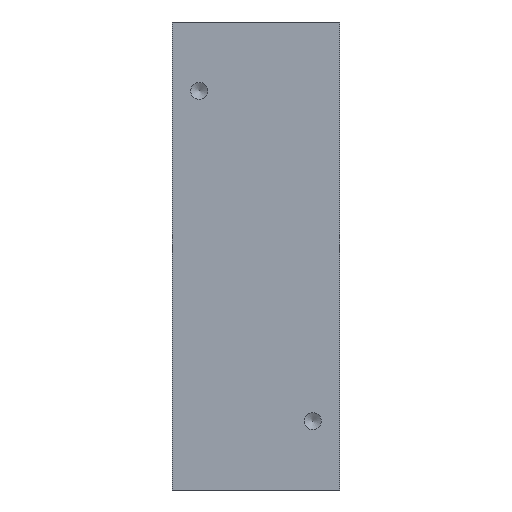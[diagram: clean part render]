
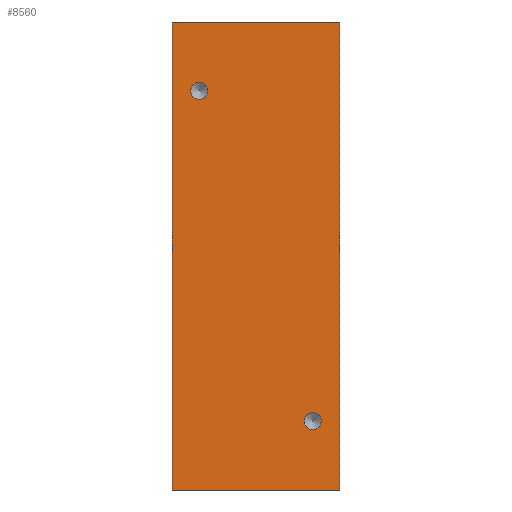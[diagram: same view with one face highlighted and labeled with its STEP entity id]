
A CAD part, front view. The second image highlights one B-rep face of the part: STEP entity #8560.
In plain terms, the highlighted planar face has unit normal (0, -1, 0).
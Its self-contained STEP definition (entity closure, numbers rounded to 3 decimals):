
#573=FACE_BOUND('',#1832,.T.);
#574=FACE_BOUND('',#1833,.T.);
#800=PLANE('',#9540);
#1278=FACE_OUTER_BOUND('',#1831,.T.);
#1831=EDGE_LOOP('',(#7775,#7776,#7777,#7778));
#1832=EDGE_LOOP('',(#7779));
#1833=EDGE_LOOP('',(#7780));
#2056=LINE('',#13563,#2677);
#2063=LINE('',#13584,#2684);
#2441=LINE('',#15339,#3062);
#2442=LINE('',#15340,#3063);
#2677=VECTOR('',#10551,34.);
#2684=VECTOR('',#10570,34.);
#3062=VECTOR('',#12006,95.);
#3063=VECTOR('',#12007,95.);
#3562=CIRCLE('',#9541,1.73);
#3563=CIRCLE('',#9542,1.73);
#3861=VERTEX_POINT('',#13561);
#3862=VERTEX_POINT('',#13562);
#3868=VERTEX_POINT('',#13580);
#3870=VERTEX_POINT('',#13583);
#4330=VERTEX_POINT('',#15341);
#4331=VERTEX_POINT('',#15343);
#4796=EDGE_CURVE('',#3861,#3862,#2056,.T.);
#4806=EDGE_CURVE('',#3870,#3868,#2063,.T.);
#5494=EDGE_CURVE('',#3861,#3868,#2441,.T.);
#5495=EDGE_CURVE('',#3862,#3870,#2442,.T.);
#5496=EDGE_CURVE('',#4330,#4330,#3562,.T.);
#5497=EDGE_CURVE('',#4331,#4331,#3563,.T.);
#7775=ORIENTED_EDGE('',*,*,#4806,.T.);
#7776=ORIENTED_EDGE('',*,*,#5494,.F.);
#7777=ORIENTED_EDGE('',*,*,#4796,.T.);
#7778=ORIENTED_EDGE('',*,*,#5495,.T.);
#7779=ORIENTED_EDGE('',*,*,#5496,.T.);
#7780=ORIENTED_EDGE('',*,*,#5497,.T.);
#8560=ADVANCED_FACE('',(#1278,#573,#574),#800,.T.);
#9540=AXIS2_PLACEMENT_3D('',#15338,#12004,#12005);
#9541=AXIS2_PLACEMENT_3D('',#15342,#12008,#12009);
#9542=AXIS2_PLACEMENT_3D('',#15344,#12010,#12011);
#10551=DIRECTION('',(-1.,0.,0.));
#10570=DIRECTION('',(1.,0.,0.));
#12004=DIRECTION('center_axis',(0.,-1.,0.));
#12005=DIRECTION('ref_axis',(0.,0.,-1.));
#12006=DIRECTION('',(0.,0.,-1.));
#12007=DIRECTION('',(0.,0.,-1.));
#12008=DIRECTION('center_axis',(0.,1.,0.));
#12009=DIRECTION('ref_axis',(1.,0.,0.));
#12010=DIRECTION('center_axis',(0.,1.,0.));
#12011=DIRECTION('ref_axis',(1.,0.,0.));
#13561=CARTESIAN_POINT('',(-24.702,-199.943,87.614));
#13562=CARTESIAN_POINT('',(-58.702,-199.943,87.614));
#13563=CARTESIAN_POINT('',(-24.702,-199.943,87.614));
#13580=CARTESIAN_POINT('',(-24.702,-199.943,-7.386));
#13583=CARTESIAN_POINT('',(-58.702,-199.943,-7.386));
#13584=CARTESIAN_POINT('',(-24.702,-199.943,-7.386));
#15338=CARTESIAN_POINT('Origin',(-58.702,-199.943,87.614));
#15339=CARTESIAN_POINT('',(-24.702,-199.943,87.614));
#15340=CARTESIAN_POINT('',(-58.702,-199.943,87.614));
#15341=CARTESIAN_POINT('',(-54.931,-199.943,73.614));
#15342=CARTESIAN_POINT('Origin',(-53.202,-199.943,73.614));
#15343=CARTESIAN_POINT('',(-31.931,-199.943,6.614));
#15344=CARTESIAN_POINT('Origin',(-30.202,-199.943,6.614));
